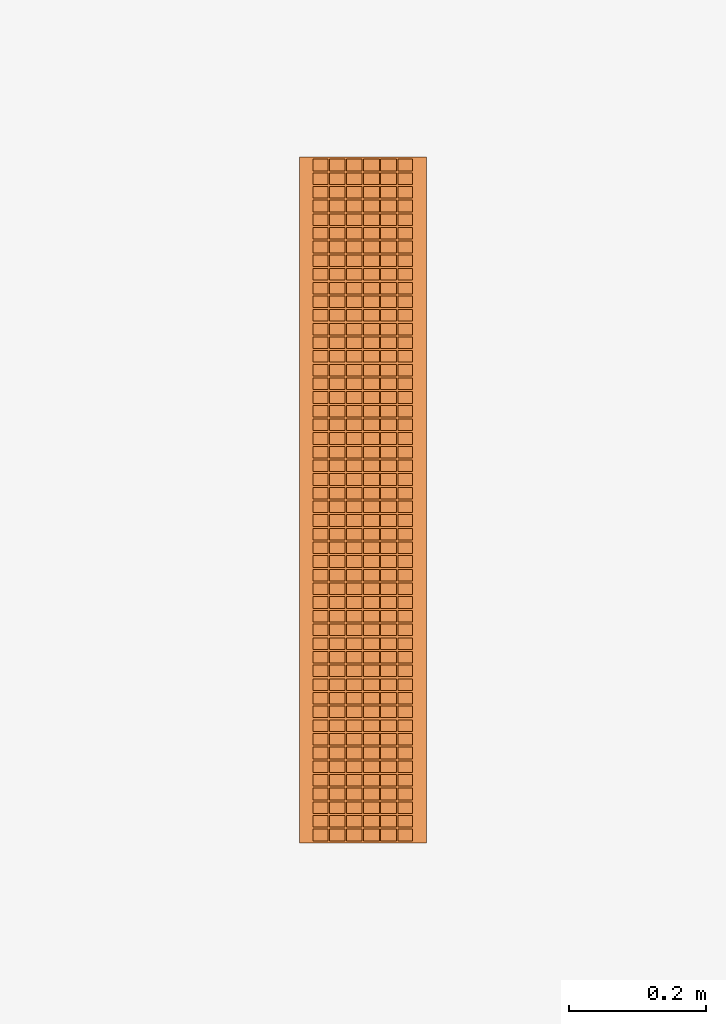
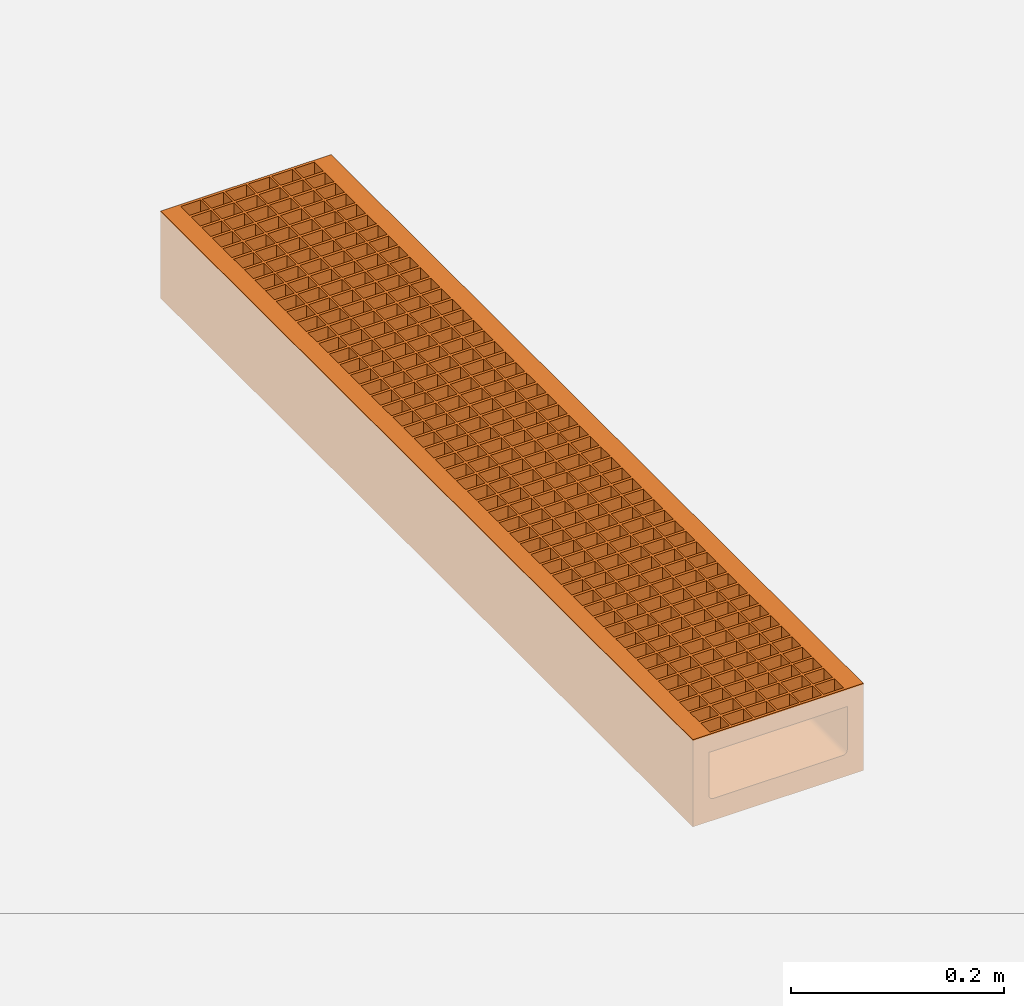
# One storey, part 2 of 2: 1 proxy.
"""IFC2X3 building model written with IfcOpenShell, lengths in millimetres."""

from ifc_helpers import new_model, entity, si_unit, converted_unit, direction, frame, frame_2d, origin, origin_2d_with_axis, place, context, subcontext, project, spatial, polyline, circle_curve, parameter, trimmed, segment, composite_curve, rectangle, outline, extrude, source, transform, mapped, material, material_list, element, save


model = new_model("IFC2X3")

# Units and contexts
model_context = context("Model", 3, precision=1e-06, world=origin(), true_north=direction((2.0, 6.12303176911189e-17, 1.0)))
context_of_model = context(None, 3, precision=1e-06, world=origin(), true_north=direction((2.0, 6.12303176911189e-17, 1.0)))
body_context = subcontext(model_context, "Body", "Model", "MODEL_VIEW")
ifc_project = project(units=[si_unit("LENGTHUNIT", "METRE", prefix="MILLI"), si_unit("AREAUNIT", "SQUARE_METRE", prefix="MILLI"), si_unit("VOLUMEUNIT", "CUBIC_METRE", prefix="MILLI"), converted_unit("PLANEANGLEUNIT", "DEGREE", entity("IfcRatioMeasure", 0.0174532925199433), si_unit("PLANEANGLEUNIT", "RADIAN"), dimensions=[0, 0, 0, 0, 0, 0, 0]), si_unit("TIMEUNIT", "SECOND")], contexts=[model_context, context_of_model])

# Site, building, storey
site_placement = place(None, origin())
site = spatial("IfcSite", under=ifc_project, at=site_placement, Name="Default", CompositionType="ELEMENT")
building_placement = place(site_placement, origin())
building = spatial("IfcBuilding", under=site, at=building_placement, CompositionType="ELEMENT")
storey_placement = place(building_placement, origin())
storey = spatial("IfcBuildingStorey", under=building, at=storey_placement, Name="Level 1", CompositionType="ELEMENT", Elevation=0.0)

# Proxy
ifc_material = material(Name="Vienite® Synthetic Resin Concrete")
ifc_material_list = material_list([ifc_material])
shared_shape = source(origin(), body_context, "Body", "SweptSolid", [
    extrude(rectangle(XDim=3.00000000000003, YDim=145.0, at=frame_2d((-1.54321000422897e-14, 0.0), x_axis=(1.0, 0.0))), frame((0.0, 1.50000000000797, -20.5000000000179), z_axis=(0.0, 0.0, 1.0), x_axis=(0.0, 1.0, 0.0)), (0.0, 0.0, 1.0), 20.5),
    extrude(rectangle(XDim=3.00000000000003, YDim=145.0, at=frame_2d((-1.47659662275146e-14, 0.0), x_axis=(1.0, 0.0))), frame((0.0, 21.440000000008, -20.5000000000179), z_axis=(0.0, 0.0, 1.0), x_axis=(0.0, 1.0, 0.0)), (0.0, 0.0, 1.0), 20.5),
    extrude(rectangle(XDim=3.00000000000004, YDim=145.0, at=frame_2d((-1.26565424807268e-14, 0.0), x_axis=(1.0, 0.0))), frame((0.0, 41.380000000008, -20.5000000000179), z_axis=(0.0, 0.0, 1.0), x_axis=(0.0, 1.0, 0.0)), (0.0, 0.0, 1.0), 20.5),
    extrude(rectangle(XDim=3.00000000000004, YDim=145.0, at=frame_2d((-1.26565424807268e-14, 0.0), x_axis=(1.0, 0.0))), frame((0.0, 61.320000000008, -20.5000000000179), z_axis=(0.0, 0.0, 1.0), x_axis=(0.0, 1.0, 0.0)), (0.0, 0.0, 1.0), 20.5),
    extrude(rectangle(XDim=3.00000000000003, YDim=145.0, at=frame_2d((-1.68753899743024e-14, 0.0), x_axis=(1.0, 0.0))), frame((0.0, 81.260000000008, -20.5000000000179), z_axis=(0.0, 0.0, 1.0), x_axis=(0.0, 1.0, 0.0)), (0.0, 0.0, 1.0), 20.5),
    extrude(rectangle(XDim=3.00000000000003, YDim=145.0, at=frame_2d((-1.68753899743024e-14, 0.0), x_axis=(1.0, 0.0))), frame((0.0, 101.200000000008, -20.5000000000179), z_axis=(0.0, 0.0, 1.0), x_axis=(0.0, 1.0, 0.0)), (0.0, 0.0, 1.0), 20.5),
    extrude(rectangle(XDim=3.00000000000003, YDim=145.0, at=frame_2d((-1.68753899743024e-14, 0.0), x_axis=(1.0, 0.0))), frame((0.0, 121.140000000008, -20.5000000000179), z_axis=(0.0, 0.0, 1.0), x_axis=(0.0, 1.0, 0.0)), (0.0, 0.0, 1.0), 20.5),
    extrude(rectangle(XDim=3.00000000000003, YDim=145.0, at=frame_2d((-1.68753899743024e-14, 0.0), x_axis=(1.0, 0.0))), frame((0.0, 141.080000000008, -20.5000000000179), z_axis=(0.0, 0.0, 1.0), x_axis=(0.0, 1.0, 0.0)), (0.0, 0.0, 1.0), 20.5),
    extrude(rectangle(XDim=3.00000000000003, YDim=145.0, at=frame_2d((-1.68753899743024e-14, 0.0), x_axis=(1.0, 0.0))), frame((0.0, 161.020000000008, -20.5000000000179), z_axis=(0.0, 0.0, 1.0), x_axis=(0.0, 1.0, 0.0)), (0.0, 0.0, 1.0), 20.5),
    extrude(rectangle(XDim=3.00000000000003, YDim=145.0, at=frame_2d((1.68753899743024e-14, 0.0), x_axis=(1.0, 0.0))), frame((0.0, 180.960000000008, -20.5000000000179), z_axis=(0.0, 0.0, 1.0), x_axis=(0.0, 1.0, 0.0)), (0.0, 0.0, 1.0), 20.5),
    extrude(rectangle(XDim=3.00000000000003, YDim=145.0, at=frame_2d((-1.68753899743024e-14, 0.0), x_axis=(1.0, 0.0))), frame((0.0, 200.900000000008, -20.5000000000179), z_axis=(0.0, 0.0, 1.0), x_axis=(0.0, 1.0, 0.0)), (0.0, 0.0, 1.0), 20.5),
    extrude(rectangle(XDim=3.00000000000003, YDim=145.0, at=frame_2d((-1.68753899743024e-14, 0.0), x_axis=(1.0, 0.0))), frame((0.0, 220.840000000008, -20.5000000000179), z_axis=(0.0, 0.0, 1.0), x_axis=(0.0, 1.0, 0.0)), (0.0, 0.0, 1.0), 20.5),
    extrude(rectangle(XDim=3.00000000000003, YDim=145.0, at=frame_2d((1.68753899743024e-14, 0.0), x_axis=(1.0, 0.0))), frame((0.0, 240.780000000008, -20.5000000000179), z_axis=(0.0, 0.0, 1.0), x_axis=(0.0, 1.0, 0.0)), (0.0, 0.0, 1.0), 20.5),
    extrude(rectangle(XDim=3.00000000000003, YDim=145.0, at=frame_2d((-5.07371922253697e-14, 0.0), x_axis=(1.0, 0.0))), frame((0.0, 260.720000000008, -20.5000000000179), z_axis=(0.0, 0.0, 1.0), x_axis=(0.0, 1.0, 0.0)), (0.0, 0.0, 1.0), 20.5),
    extrude(rectangle(XDim=3.00000000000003, YDim=145.0, at=frame_2d((-1.68753899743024e-14, 0.0), x_axis=(1.0, 0.0))), frame((0.0, 280.660000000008, -20.5000000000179), z_axis=(0.0, 0.0, 1.0), x_axis=(0.0, 1.0, 0.0)), (0.0, 0.0, 1.0), 20.5),
    extrude(rectangle(XDim=3.00000000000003, YDim=145.0, at=frame_2d((1.68753899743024e-14, 0.0), x_axis=(1.0, 0.0))), frame((0.0, 300.600000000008, -20.5000000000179), z_axis=(0.0, 0.0, 1.0), x_axis=(0.0, 1.0, 0.0)), (0.0, 0.0, 1.0), 20.5),
    extrude(rectangle(XDim=2.99999999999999, YDim=145.0, at=origin_2d_with_axis()), frame((0.0, 320.540000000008, -20.5000000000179), z_axis=(0.0, 0.0, 1.0), x_axis=(0.0, 1.0, 0.0)), (0.0, 0.0, 1.0), 20.5),
    extrude(rectangle(XDim=2.99999999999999, YDim=145.0, at=origin_2d_with_axis()), frame((0.0, 340.480000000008, -20.5000000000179), z_axis=(0.0, 0.0, 1.0), x_axis=(0.0, 1.0, 0.0)), (0.0, 0.0, 1.0), 20.5),
    extrude(rectangle(XDim=2.99999999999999, YDim=145.0, at=origin_2d_with_axis()), frame((0.0, 360.420000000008, -20.5000000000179), z_axis=(0.0, 0.0, 1.0), x_axis=(0.0, 1.0, 0.0)), (0.0, 0.0, 1.0), 20.5),
    extrude(rectangle(XDim=2.99999999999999, YDim=145.0, at=origin_2d_with_axis()), frame((0.0, 380.360000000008, -20.5000000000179), z_axis=(0.0, 0.0, 1.0), x_axis=(0.0, 1.0, 0.0)), (0.0, 0.0, 1.0), 20.5),
    extrude(rectangle(XDim=2.99999999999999, YDim=145.0, at=origin_2d_with_axis()), frame((0.0, 400.300000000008, -20.5000000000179), z_axis=(0.0, 0.0, 1.0), x_axis=(0.0, 1.0, 0.0)), (0.0, 0.0, 1.0), 20.5),
    extrude(rectangle(XDim=2.99999999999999, YDim=145.0, at=frame_2d((-6.7612582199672e-14, 0.0), x_axis=(1.0, 0.0))), frame((0.0, 420.240000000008, -20.5000000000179), z_axis=(0.0, 0.0, 1.0), x_axis=(0.0, 1.0, 0.0)), (0.0, 0.0, 1.0), 20.5),
    extrude(rectangle(XDim=2.99999999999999, YDim=145.0, at=origin_2d_with_axis()), frame((0.0, 440.180000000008, -20.5000000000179), z_axis=(0.0, 0.0, 1.0), x_axis=(0.0, 1.0, 0.0)), (0.0, 0.0, 1.0), 20.5),
    extrude(rectangle(XDim=2.99999999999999, YDim=145.0, at=origin_2d_with_axis()), frame((0.0, 659.520000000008, -20.5000000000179), z_axis=(0.0, 0.0, 1.0), x_axis=(0.0, 1.0, 0.0)), (0.0, 0.0, 1.0), 20.5),
    extrude(rectangle(XDim=2.99999999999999, YDim=145.0, at=frame_2d((-1.35336186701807e-13, 0.0), x_axis=(1.0, 0.0))), frame((0.0, 739.280000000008, -20.5000000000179), z_axis=(0.0, 0.0, 1.0), x_axis=(0.0, 1.0, 0.0)), (0.0, 0.0, 1.0), 20.5),
    extrude(rectangle(XDim=2.99999999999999, YDim=145.0, at=origin_2d_with_axis()), frame((0.0, 998.500000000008, -20.5000000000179), z_axis=(0.0, 0.0, 1.0), x_axis=(0.0, 1.0, 0.0)), (0.0, 0.0, 1.0), 20.5),
    extrude(rectangle(XDim=2.99999999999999, YDim=145.0, at=frame_2d((-6.7612582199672e-14, 0.0), x_axis=(1.0, 0.0))), frame((0.0, 460.120000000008, -20.5000000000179), z_axis=(0.0, 0.0, 1.0), x_axis=(0.0, 1.0, 0.0)), (0.0, 0.0, 1.0), 20.5),
    extrude(rectangle(XDim=2.99999999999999, YDim=145.0, at=origin_2d_with_axis()), frame((0.0, 480.060000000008, -20.5000000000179), z_axis=(0.0, 0.0, 1.0), x_axis=(0.0, 1.0, 0.0)), (0.0, 0.0, 1.0), 20.5),
    extrude(rectangle(XDim=2.99999999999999, YDim=145.0, at=origin_2d_with_axis()), frame((0.0, 500.0, -20.5000000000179), z_axis=(0.0, 0.0, 1.0), x_axis=(0.0, 1.0, 0.0)), (0.0, 0.0, 1.0), 20.5),
    extrude(rectangle(XDim=2.99999999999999, YDim=145.0, at=origin_2d_with_axis()), frame((0.0, 519.940000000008, -20.5000000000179), z_axis=(0.0, 0.0, 1.0), x_axis=(0.0, 1.0, 0.0)), (0.0, 0.0, 1.0), 20.5),
    extrude(rectangle(XDim=2.99999999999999, YDim=145.0, at=frame_2d((-6.7612582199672e-14, 0.0), x_axis=(1.0, 0.0))), frame((0.0, 539.880000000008, -20.5000000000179), z_axis=(0.0, 0.0, 1.0), x_axis=(0.0, 1.0, 0.0)), (0.0, 0.0, 1.0), 20.5),
    extrude(rectangle(XDim=2.99999999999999, YDim=145.0, at=frame_2d((-6.7612582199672e-14, 0.0), x_axis=(1.0, 0.0))), frame((0.0, 559.820000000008, -20.5000000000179), z_axis=(0.0, 0.0, 1.0), x_axis=(0.0, 1.0, 0.0)), (0.0, 0.0, 1.0), 20.5),
    extrude(rectangle(XDim=2.99999999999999, YDim=145.0, at=origin_2d_with_axis()), frame((0.0, 579.760000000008, -20.5000000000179), z_axis=(0.0, 0.0, 1.0), x_axis=(0.0, 1.0, 0.0)), (0.0, 0.0, 1.0), 20.5),
    extrude(rectangle(XDim=2.99999999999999, YDim=145.0, at=origin_2d_with_axis()), frame((0.0, 599.700000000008, -20.5000000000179), z_axis=(0.0, 0.0, 1.0), x_axis=(0.0, 1.0, 0.0)), (0.0, 0.0, 1.0), 20.5),
    extrude(rectangle(XDim=2.99999999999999, YDim=145.0, at=origin_2d_with_axis()), frame((0.0, 619.640000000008, -20.5000000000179), z_axis=(0.0, 0.0, 1.0), x_axis=(0.0, 1.0, 0.0)), (0.0, 0.0, 1.0), 20.5),
    extrude(rectangle(XDim=2.99999999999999, YDim=145.0, at=frame_2d((-1.35336186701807e-13, 0.0), x_axis=(1.0, 0.0))), frame((0.0, 639.580000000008, -20.5000000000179), z_axis=(0.0, 0.0, 1.0), x_axis=(0.0, 1.0, 0.0)), (0.0, 0.0, 1.0), 20.5),
    extrude(rectangle(XDim=2.99999999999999, YDim=145.0, at=origin_2d_with_axis()), frame((0.0, 679.460000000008, -20.5000000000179), z_axis=(0.0, 0.0, 1.0), x_axis=(0.0, 1.0, 0.0)), (0.0, 0.0, 1.0), 20.5),
    extrude(rectangle(XDim=2.99999999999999, YDim=145.0, at=origin_2d_with_axis()), frame((0.0, 699.400000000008, -20.5000000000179), z_axis=(0.0, 0.0, 1.0), x_axis=(0.0, 1.0, 0.0)), (0.0, 0.0, 1.0), 20.5),
    extrude(rectangle(XDim=2.99999999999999, YDim=145.0, at=origin_2d_with_axis()), frame((0.0, 719.340000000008, -20.5000000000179), z_axis=(0.0, 0.0, 1.0), x_axis=(0.0, 1.0, 0.0)), (0.0, 0.0, 1.0), 20.5),
    extrude(rectangle(XDim=2.99999999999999, YDim=145.0, at=origin_2d_with_axis()), frame((0.0, 759.220000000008, -20.5000000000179), z_axis=(0.0, 0.0, 1.0), x_axis=(0.0, 1.0, 0.0)), (0.0, 0.0, 1.0), 20.5),
    extrude(rectangle(XDim=2.99999999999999, YDim=145.0, at=frame_2d((-1.35336186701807e-13, 0.0), x_axis=(1.0, 0.0))), frame((0.0, 779.160000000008, -20.5000000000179), z_axis=(0.0, 0.0, 1.0), x_axis=(0.0, 1.0, 0.0)), (0.0, 0.0, 1.0), 20.5),
    extrude(rectangle(XDim=2.99999999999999, YDim=145.0, at=origin_2d_with_axis()), frame((0.0, 799.100000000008, -20.5000000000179), z_axis=(0.0, 0.0, 1.0), x_axis=(0.0, 1.0, 0.0)), (0.0, 0.0, 1.0), 20.5),
    extrude(rectangle(XDim=2.99999999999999, YDim=145.0, at=origin_2d_with_axis()), frame((0.0, 819.040000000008, -20.5000000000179), z_axis=(0.0, 0.0, 1.0), x_axis=(0.0, 1.0, 0.0)), (0.0, 0.0, 1.0), 20.5),
    extrude(rectangle(XDim=2.99999999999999, YDim=145.0, at=frame_2d((1.35336186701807e-13, 0.0), x_axis=(1.0, 0.0))), frame((0.0, 838.980000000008, -20.5000000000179), z_axis=(0.0, 0.0, 1.0), x_axis=(0.0, 1.0, 0.0)), (0.0, 0.0, 1.0), 20.5),
    extrude(rectangle(XDim=2.99999999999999, YDim=145.0, at=origin_2d_with_axis()), frame((0.0, 858.920000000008, -20.5000000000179), z_axis=(0.0, 0.0, 1.0), x_axis=(0.0, 1.0, 0.0)), (0.0, 0.0, 1.0), 20.5),
    extrude(rectangle(XDim=2.99999999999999, YDim=145.0, at=frame_2d((-1.35336186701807e-13, 0.0), x_axis=(1.0, 0.0))), frame((0.0, 878.860000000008, -20.5000000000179), z_axis=(0.0, 0.0, 1.0), x_axis=(0.0, 1.0, 0.0)), (0.0, 0.0, 1.0), 20.5),
    extrude(rectangle(XDim=2.99999999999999, YDim=145.0, at=origin_2d_with_axis()), frame((0.0, 898.800000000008, -20.5000000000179), z_axis=(0.0, 0.0, 1.0), x_axis=(0.0, 1.0, 0.0)), (0.0, 0.0, 1.0), 20.5),
    extrude(rectangle(XDim=2.99999999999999, YDim=145.0, at=frame_2d((-1.35336186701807e-13, 0.0), x_axis=(1.0, 0.0))), frame((0.0, 918.740000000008, -20.5000000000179), z_axis=(0.0, 0.0, 1.0), x_axis=(0.0, 1.0, 0.0)), (0.0, 0.0, 1.0), 20.5),
    extrude(rectangle(XDim=2.99999999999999, YDim=145.0, at=frame_2d((1.35336186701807e-13, 0.0), x_axis=(1.0, 0.0))), frame((0.0, 938.680000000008, -20.5000000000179), z_axis=(0.0, 0.0, 1.0), x_axis=(0.0, 1.0, 0.0)), (0.0, 0.0, 1.0), 20.5),
    extrude(rectangle(XDim=2.99999999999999, YDim=145.0, at=origin_2d_with_axis()), frame((0.0, 958.620000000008, -20.5000000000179), z_axis=(0.0, 0.0, 1.0), x_axis=(0.0, 1.0, 0.0)), (0.0, 0.0, 1.0), 20.5),
    extrude(rectangle(XDim=2.99999999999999, YDim=145.0, at=origin_2d_with_axis()), frame((0.0, 978.560000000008, -20.5000000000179), z_axis=(0.0, 0.0, 1.0), x_axis=(0.0, 1.0, 0.0)), (0.0, 0.0, 1.0), 20.5),
    extrude(rectangle(XDim=1000.0, YDim=15.7499999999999, at=origin_2d_with_axis()), frame((80.3749999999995, 500.0, -20.5000000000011), z_axis=(0.0, 0.0, 1.0), x_axis=(0.0, 1.0, 0.0)), (0.0, 0.0, 1.0), 20.5),
    extrude(rectangle(XDim=1000.0, YDim=15.7499999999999, at=origin_2d_with_axis()), frame((-80.3750000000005, 500.0, -20.5000000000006), z_axis=(0.0, 0.0, 1.0), x_axis=(0.0, 1.0, 0.0)), (0.0, 0.0, 1.0), 20.5),
    extrude(rectangle(XDim=1000.0, YDim=1.99999999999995, at=origin_2d_with_axis()), frame((-50.0, 500.0, -20.5000000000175), z_axis=(0.0, 0.0, 1.0), x_axis=(0.0, 1.0, 0.0)), (0.0, 0.0, 1.0), 20.5000000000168),
    extrude(rectangle(XDim=1000.0, YDim=1.99999999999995, at=origin_2d_with_axis()), frame((50.0, 500.0, -20.5000000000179), z_axis=(0.0, 0.0, 1.0), x_axis=(0.0, 1.0, 0.0)), (0.0, 0.0, 1.0), 20.5000000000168),
    extrude(rectangle(XDim=1000.0, YDim=1.99999999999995, at=origin_2d_with_axis()), frame((-25.0, 500.0, -20.5000000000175), z_axis=(0.0, 0.0, 1.0), x_axis=(0.0, 1.0, 0.0)), (0.0, 0.0, 1.0), 20.5000000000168),
    extrude(rectangle(XDim=1000.0, YDim=1.99999999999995, at=origin_2d_with_axis()), frame((0.0, 500.0, -20.5000000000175), z_axis=(0.0, 0.0, 1.0), x_axis=(0.0, 1.0, 0.0)), (0.0, 0.0, 1.0), 20.5000000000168),
    extrude(rectangle(XDim=1000.0, YDim=1.99999999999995, at=origin_2d_with_axis()), frame((25.0, 500.0, -20.5000000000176), z_axis=(0.0, 0.0, 1.0), x_axis=(0.0, 1.0, 0.0)), (0.0, 0.0, 1.0), 20.5000000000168),
    extrude(outline(composite_curve([segment(polyline([(-40.857142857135, -92.4999999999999), (59.1428571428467, -92.4999999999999)]), True, "CONTINUOUS"), segment(polyline([(59.1428571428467, -92.4999999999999), (59.1428571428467, 92.5)]), True, "CONTINUOUS"), segment(polyline([(59.1428571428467, 92.5), (-40.857142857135, 92.5)]), True, "CONTINUOUS"), segment(polyline([(-40.857142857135, 92.5), (-40.857142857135, 88.25)]), True, "CONTINUOUS"), segment(polyline([(-40.857142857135, 88.25), (-20.357142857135, 88.25)]), True, "CONTINUOUS"), segment(polyline([(-20.357142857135, 88.25), (-20.357142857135, 75.0)]), True, "CONTINUOUS"), segment(polyline([(-20.357142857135, 75.0), (29.1428571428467, 75.0)]), True, "CONTINUOUS"), segment(trimmed(circle_curve(frame_2d((29.1428571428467, 70.0), x_axis=(0.0, -1.0)), 5.0), [parameter(90.0000000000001)], [parameter(180.0)], True, "PARAMETER"), False, "CONTINUOUS"), segment(polyline([(34.1428571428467, 70.0), (34.1428571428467, -70.0)]), True, "CONTINUOUS"), segment(trimmed(circle_curve(frame_2d((29.1428571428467, -70.0), x_axis=(0.0, -1.0)), 5.0), [parameter(360.0)], [parameter(89.9999999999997)], True, "PARAMETER"), False, "CONTINUOUS"), segment(polyline([(29.1428571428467, -75.0), (-20.357142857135, -75.0)]), True, "CONTINUOUS"), segment(polyline([(-20.357142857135, -75.0), (-20.357142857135, -88.2499999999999)]), True, "CONTINUOUS"), segment(polyline([(-20.357142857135, -88.2499999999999), (-40.857142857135, -88.2499999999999)]), True, "CONTINUOUS"), segment(polyline([(-40.857142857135, -88.2499999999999), (-40.857142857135, -92.4999999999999)]), True, "CONTINUOUS")], self_intersect=False)), frame((0.0, 0.0, -40.857142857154), z_axis=(0.0, 1.0, 0.0), x_axis=(0.0, 0.0, -1.0)), (0.0, 0.0, 1.0), 1000.0),
])
proxy_placement = place(storey_placement, frame((-771.067269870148, -1104.35833270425, 0.0)))
element("IfcBuildingElementProxy", 1, at=proxy_placement, inside=storey, material=ifc_material_list, Name="Civil-Drainage-Channel-ACO-MultiDrain-M150DS-Channel-System-Custom_Final FL:24156 - No 0100 Constant Depth Channel - 1000mm LG - Invert Depth 75mm:24156 - No 0100 Constant Depth Channel - 1000mm LG - Invert Depth 75mm", ObjectType="24156 - No 0100 Constant Depth Channel - 1000mm LG - Invert Depth 75mm", CompositionType="ELEMENT", context=body_context, shape_type="MappedRepresentation", body=[
    mapped(shared_shape, transform((0.0, 0.0, 0.0), scale=1.0)),
])

save(model, "model.ifc")
